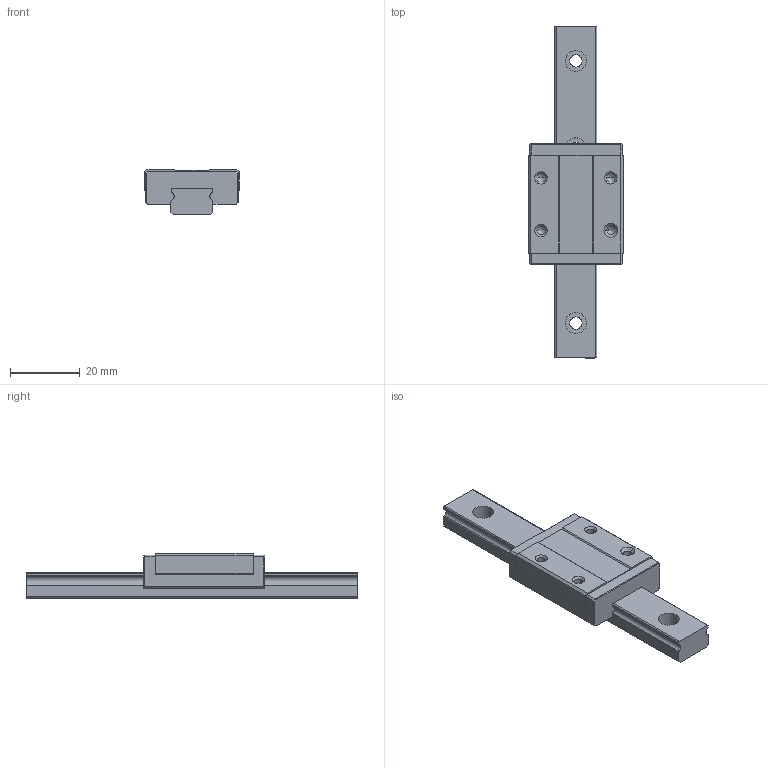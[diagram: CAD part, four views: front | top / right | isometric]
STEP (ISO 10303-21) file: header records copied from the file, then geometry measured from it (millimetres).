
FILE_DESCRIPTION( ( '' ), '1' );
FILE_NAME( 'V:\MSC\MODEL File\MAC catalog drawing\STEP\MSC12M.stp', ' ', ( '' ), ( '' ), 'ACIS Interop R16', 'Kubotek KeyCreator V6.3.0 (0248)', ' ' );
FILE_SCHEMA( ( 'CONFIG_CONTROL_DESIGN' ) );
Length unit declared in the file: millimetre
Products named in the file (2): 1; 2
Bounding box: 27 x 95 x 13 mm (x, y, z)
Volume: 14777.5 mm3; surface area: 7730.3 mm2
Topology: 2 solids, 2 shells, 116 faces, 305 edges, 193 vertices
Faces by surface type: plane 58, cylinder 42, cone 16
Entity records: 3629 total; most frequent: DIRECTION 631, CARTESIAN_POINT 617, ORIENTED_EDGE 594, EDGE_CURVE 297, AXIS2_PLACEMENT_3D 219, VERTEX_POINT 193, LINE 193, VECTOR 193
